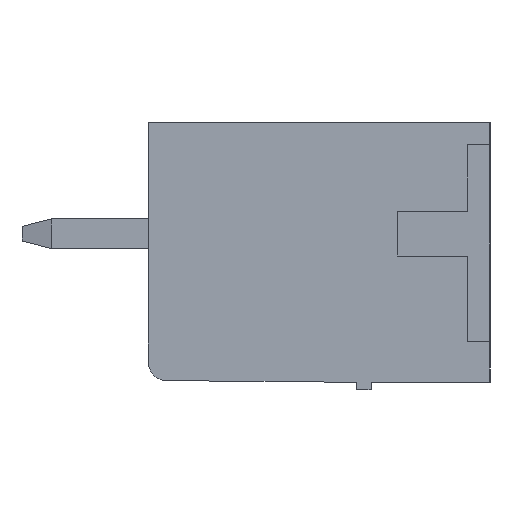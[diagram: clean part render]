
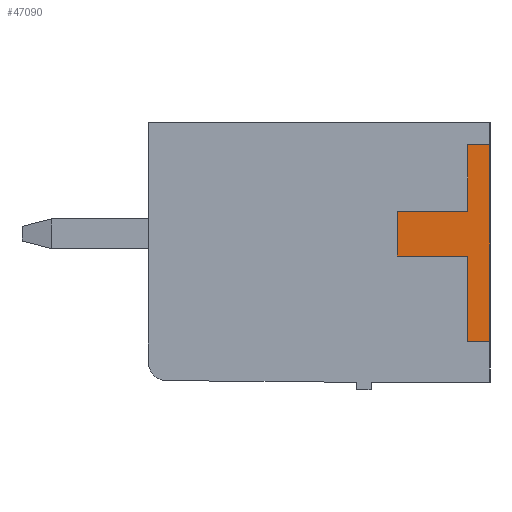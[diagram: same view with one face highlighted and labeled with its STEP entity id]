
A CAD part, left-side view. The second image highlights one B-rep face of the part: STEP entity #47090.
In plain terms, the highlighted planar face has unit normal (-1, 0, 0).
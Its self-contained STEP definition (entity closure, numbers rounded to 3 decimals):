
#100 = PLANE('',#101);
#101 = AXIS2_PLACEMENT_3D('',#102,#103,#104);
#102 = CARTESIAN_POINT('',(0.,0.,7.));
#103 = DIRECTION('',(0.,-1.,0.));
#104 = DIRECTION('',(0.,0.,-1.));
#128 = PLANE('',#129);
#129 = AXIS2_PLACEMENT_3D('',#130,#131,#132);
#130 = CARTESIAN_POINT('',(0.,0.,6.4));
#131 = DIRECTION('',(0.,0.,1.));
#132 = DIRECTION('',(0.,1.,0.));
#156 = PLANE('',#157);
#157 = AXIS2_PLACEMENT_3D('',#158,#159,#160);
#158 = CARTESIAN_POINT('',(0.,0.6,6.4));
#159 = DIRECTION('',(0.,1.,0.));
#160 = DIRECTION('',(0.,0.,-1.));
#184 = PLANE('',#185);
#185 = AXIS2_PLACEMENT_3D('',#186,#187,#188);
#186 = CARTESIAN_POINT('',(0.,0.6,4.6));
#187 = DIRECTION('',(0.,0.,1.));
#188 = DIRECTION('',(0.,1.,0.));
#212 = PLANE('',#213);
#213 = AXIS2_PLACEMENT_3D('',#214,#215,#216);
#214 = CARTESIAN_POINT('',(0.,2.5,4.6));
#215 = DIRECTION('',(0.,1.,0.));
#216 = DIRECTION('',(0.,0.,-1.));
#240 = PLANE('',#241);
#241 = AXIS2_PLACEMENT_3D('',#242,#243,#244);
#242 = CARTESIAN_POINT('',(0.,2.5,3.4));
#243 = DIRECTION('',(0.,0.,-1.));
#244 = DIRECTION('',(0.,-1.,0.));
#268 = PLANE('',#269);
#269 = AXIS2_PLACEMENT_3D('',#270,#271,#272);
#270 = CARTESIAN_POINT('',(0.,0.6,3.4));
#271 = DIRECTION('',(0.,1.,0.));
#272 = DIRECTION('',(0.,0.,-1.));
#296 = PLANE('',#297);
#297 = AXIS2_PLACEMENT_3D('',#298,#299,#300);
#298 = CARTESIAN_POINT('',(0.,0.6,1.1));
#299 = DIRECTION('',(0.,0.,-1.));
#300 = DIRECTION('',(0.,-1.,0.));
#6135 = VERTEX_POINT('',#6136);
#6136 = CARTESIAN_POINT('',(-0.2,0.,1.1));
#6157 = EDGE_CURVE('',#6135,#6158,#6160,.T.);
#6158 = VERTEX_POINT('',#6159);
#6159 = CARTESIAN_POINT('',(-0.2,0.,6.4));
#6160 = SURFACE_CURVE('',#6161,(#6165,#6172),.PCURVE_S1.);
#6161 = LINE('',#6162,#6163);
#6162 = CARTESIAN_POINT('',(-0.2,0.,1.1));
#6163 = VECTOR('',#6164,1.);
#6164 = DIRECTION('',(0.,0.,1.));
#6165 = PCURVE('',#100,#6166);
#6166 = DEFINITIONAL_REPRESENTATION('',(#6167),#6171);
#6167 = LINE('',#6168,#6169);
#6168 = CARTESIAN_POINT('',(5.9,-0.2));
#6169 = VECTOR('',#6170,1.);
#6170 = DIRECTION('',(-1.,0.));
#6171 = ( GEOMETRIC_REPRESENTATION_CONTEXT(2) 
PARAMETRIC_REPRESENTATION_CONTEXT() REPRESENTATION_CONTEXT('2D SPACE',''
  ) );
#6172 = PCURVE('',#6173,#6178);
#6173 = PLANE('',#6174);
#6174 = AXIS2_PLACEMENT_3D('',#6175,#6176,#6177);
#6175 = CARTESIAN_POINT('',(-0.2,0.,0.));
#6176 = DIRECTION('',(-1.,0.,0.));
#6177 = DIRECTION('',(0.,0.,1.));
#6178 = DEFINITIONAL_REPRESENTATION('',(#6179),#6183);
#6179 = LINE('',#6180,#6181);
#6180 = CARTESIAN_POINT('',(1.1,0.));
#6181 = VECTOR('',#6182,1.);
#6182 = DIRECTION('',(1.,0.));
#6183 = ( GEOMETRIC_REPRESENTATION_CONTEXT(2) 
PARAMETRIC_REPRESENTATION_CONTEXT() REPRESENTATION_CONTEXT('2D SPACE',''
  ) );
#46775 = VERTEX_POINT('',#46776);
#46776 = CARTESIAN_POINT('',(-0.2,0.6,1.1));
#46797 = EDGE_CURVE('',#46775,#6135,#46798,.T.);
#46798 = SURFACE_CURVE('',#46799,(#46803,#46810),.PCURVE_S1.);
#46799 = LINE('',#46800,#46801);
#46800 = CARTESIAN_POINT('',(-0.2,0.6,1.1));
#46801 = VECTOR('',#46802,1.);
#46802 = DIRECTION('',(0.,-1.,0.));
#46803 = PCURVE('',#296,#46804);
#46804 = DEFINITIONAL_REPRESENTATION('',(#46805),#46809);
#46805 = LINE('',#46806,#46807);
#46806 = CARTESIAN_POINT('',(0.,0.2));
#46807 = VECTOR('',#46808,1.);
#46808 = DIRECTION('',(1.,0.));
#46809 = ( GEOMETRIC_REPRESENTATION_CONTEXT(2) 
PARAMETRIC_REPRESENTATION_CONTEXT() REPRESENTATION_CONTEXT('2D SPACE',''
  ) );
#46810 = PCURVE('',#6173,#46811);
#46811 = DEFINITIONAL_REPRESENTATION('',(#46812),#46816);
#46812 = LINE('',#46813,#46814);
#46813 = CARTESIAN_POINT('',(1.1,0.6));
#46814 = VECTOR('',#46815,1.);
#46815 = DIRECTION('',(0.,-1.));
#46816 = ( GEOMETRIC_REPRESENTATION_CONTEXT(2) 
PARAMETRIC_REPRESENTATION_CONTEXT() REPRESENTATION_CONTEXT('2D SPACE',''
  ) );
#46824 = VERTEX_POINT('',#46825);
#46825 = CARTESIAN_POINT('',(-0.2,0.6,3.4));
#46846 = EDGE_CURVE('',#46824,#46775,#46847,.T.);
#46847 = SURFACE_CURVE('',#46848,(#46852,#46859),.PCURVE_S1.);
#46848 = LINE('',#46849,#46850);
#46849 = CARTESIAN_POINT('',(-0.2,0.6,3.4));
#46850 = VECTOR('',#46851,1.);
#46851 = DIRECTION('',(0.,0.,-1.));
#46852 = PCURVE('',#268,#46853);
#46853 = DEFINITIONAL_REPRESENTATION('',(#46854),#46858);
#46854 = LINE('',#46855,#46856);
#46855 = CARTESIAN_POINT('',(0.,0.2));
#46856 = VECTOR('',#46857,1.);
#46857 = DIRECTION('',(1.,0.));
#46858 = ( GEOMETRIC_REPRESENTATION_CONTEXT(2) 
PARAMETRIC_REPRESENTATION_CONTEXT() REPRESENTATION_CONTEXT('2D SPACE',''
  ) );
#46859 = PCURVE('',#6173,#46860);
#46860 = DEFINITIONAL_REPRESENTATION('',(#46861),#46865);
#46861 = LINE('',#46862,#46863);
#46862 = CARTESIAN_POINT('',(3.4,0.6));
#46863 = VECTOR('',#46864,1.);
#46864 = DIRECTION('',(-1.,0.));
#46865 = ( GEOMETRIC_REPRESENTATION_CONTEXT(2) 
PARAMETRIC_REPRESENTATION_CONTEXT() REPRESENTATION_CONTEXT('2D SPACE',''
  ) );
#46873 = VERTEX_POINT('',#46874);
#46874 = CARTESIAN_POINT('',(-0.2,2.5,3.4));
#46895 = EDGE_CURVE('',#46873,#46824,#46896,.T.);
#46896 = SURFACE_CURVE('',#46897,(#46901,#46908),.PCURVE_S1.);
#46897 = LINE('',#46898,#46899);
#46898 = CARTESIAN_POINT('',(-0.2,2.5,3.4));
#46899 = VECTOR('',#46900,1.);
#46900 = DIRECTION('',(0.,-1.,0.));
#46901 = PCURVE('',#240,#46902);
#46902 = DEFINITIONAL_REPRESENTATION('',(#46903),#46907);
#46903 = LINE('',#46904,#46905);
#46904 = CARTESIAN_POINT('',(0.,0.2));
#46905 = VECTOR('',#46906,1.);
#46906 = DIRECTION('',(1.,0.));
#46907 = ( GEOMETRIC_REPRESENTATION_CONTEXT(2) 
PARAMETRIC_REPRESENTATION_CONTEXT() REPRESENTATION_CONTEXT('2D SPACE',''
  ) );
#46908 = PCURVE('',#6173,#46909);
#46909 = DEFINITIONAL_REPRESENTATION('',(#46910),#46914);
#46910 = LINE('',#46911,#46912);
#46911 = CARTESIAN_POINT('',(3.4,2.5));
#46912 = VECTOR('',#46913,1.);
#46913 = DIRECTION('',(0.,-1.));
#46914 = ( GEOMETRIC_REPRESENTATION_CONTEXT(2) 
PARAMETRIC_REPRESENTATION_CONTEXT() REPRESENTATION_CONTEXT('2D SPACE',''
  ) );
#46922 = VERTEX_POINT('',#46923);
#46923 = CARTESIAN_POINT('',(-0.2,2.5,4.6));
#46944 = EDGE_CURVE('',#46922,#46873,#46945,.T.);
#46945 = SURFACE_CURVE('',#46946,(#46950,#46957),.PCURVE_S1.);
#46946 = LINE('',#46947,#46948);
#46947 = CARTESIAN_POINT('',(-0.2,2.5,4.6));
#46948 = VECTOR('',#46949,1.);
#46949 = DIRECTION('',(0.,0.,-1.));
#46950 = PCURVE('',#212,#46951);
#46951 = DEFINITIONAL_REPRESENTATION('',(#46952),#46956);
#46952 = LINE('',#46953,#46954);
#46953 = CARTESIAN_POINT('',(0.,0.2));
#46954 = VECTOR('',#46955,1.);
#46955 = DIRECTION('',(1.,0.));
#46956 = ( GEOMETRIC_REPRESENTATION_CONTEXT(2) 
PARAMETRIC_REPRESENTATION_CONTEXT() REPRESENTATION_CONTEXT('2D SPACE',''
  ) );
#46957 = PCURVE('',#6173,#46958);
#46958 = DEFINITIONAL_REPRESENTATION('',(#46959),#46963);
#46959 = LINE('',#46960,#46961);
#46960 = CARTESIAN_POINT('',(4.6,2.5));
#46961 = VECTOR('',#46962,1.);
#46962 = DIRECTION('',(-1.,0.));
#46963 = ( GEOMETRIC_REPRESENTATION_CONTEXT(2) 
PARAMETRIC_REPRESENTATION_CONTEXT() REPRESENTATION_CONTEXT('2D SPACE',''
  ) );
#46971 = VERTEX_POINT('',#46972);
#46972 = CARTESIAN_POINT('',(-0.2,0.6,4.6));
#46993 = EDGE_CURVE('',#46971,#46922,#46994,.T.);
#46994 = SURFACE_CURVE('',#46995,(#46999,#47006),.PCURVE_S1.);
#46995 = LINE('',#46996,#46997);
#46996 = CARTESIAN_POINT('',(-0.2,0.6,4.6));
#46997 = VECTOR('',#46998,1.);
#46998 = DIRECTION('',(0.,1.,0.));
#46999 = PCURVE('',#184,#47000);
#47000 = DEFINITIONAL_REPRESENTATION('',(#47001),#47005);
#47001 = LINE('',#47002,#47003);
#47002 = CARTESIAN_POINT('',(0.,0.2));
#47003 = VECTOR('',#47004,1.);
#47004 = DIRECTION('',(1.,0.));
#47005 = ( GEOMETRIC_REPRESENTATION_CONTEXT(2) 
PARAMETRIC_REPRESENTATION_CONTEXT() REPRESENTATION_CONTEXT('2D SPACE',''
  ) );
#47006 = PCURVE('',#6173,#47007);
#47007 = DEFINITIONAL_REPRESENTATION('',(#47008),#47012);
#47008 = LINE('',#47009,#47010);
#47009 = CARTESIAN_POINT('',(4.6,0.6));
#47010 = VECTOR('',#47011,1.);
#47011 = DIRECTION('',(0.,1.));
#47012 = ( GEOMETRIC_REPRESENTATION_CONTEXT(2) 
PARAMETRIC_REPRESENTATION_CONTEXT() REPRESENTATION_CONTEXT('2D SPACE',''
  ) );
#47020 = VERTEX_POINT('',#47021);
#47021 = CARTESIAN_POINT('',(-0.2,0.6,6.4));
#47042 = EDGE_CURVE('',#47020,#46971,#47043,.T.);
#47043 = SURFACE_CURVE('',#47044,(#47048,#47055),.PCURVE_S1.);
#47044 = LINE('',#47045,#47046);
#47045 = CARTESIAN_POINT('',(-0.2,0.6,6.4));
#47046 = VECTOR('',#47047,1.);
#47047 = DIRECTION('',(0.,0.,-1.));
#47048 = PCURVE('',#156,#47049);
#47049 = DEFINITIONAL_REPRESENTATION('',(#47050),#47054);
#47050 = LINE('',#47051,#47052);
#47051 = CARTESIAN_POINT('',(0.,0.2));
#47052 = VECTOR('',#47053,1.);
#47053 = DIRECTION('',(1.,0.));
#47054 = ( GEOMETRIC_REPRESENTATION_CONTEXT(2) 
PARAMETRIC_REPRESENTATION_CONTEXT() REPRESENTATION_CONTEXT('2D SPACE',''
  ) );
#47055 = PCURVE('',#6173,#47056);
#47056 = DEFINITIONAL_REPRESENTATION('',(#47057),#47061);
#47057 = LINE('',#47058,#47059);
#47058 = CARTESIAN_POINT('',(6.4,0.6));
#47059 = VECTOR('',#47060,1.);
#47060 = DIRECTION('',(-1.,0.));
#47061 = ( GEOMETRIC_REPRESENTATION_CONTEXT(2) 
PARAMETRIC_REPRESENTATION_CONTEXT() REPRESENTATION_CONTEXT('2D SPACE',''
  ) );
#47069 = EDGE_CURVE('',#6158,#47020,#47070,.T.);
#47070 = SURFACE_CURVE('',#47071,(#47075,#47082),.PCURVE_S1.);
#47071 = LINE('',#47072,#47073);
#47072 = CARTESIAN_POINT('',(-0.2,0.,6.4));
#47073 = VECTOR('',#47074,1.);
#47074 = DIRECTION('',(0.,1.,0.));
#47075 = PCURVE('',#128,#47076);
#47076 = DEFINITIONAL_REPRESENTATION('',(#47077),#47081);
#47077 = LINE('',#47078,#47079);
#47078 = CARTESIAN_POINT('',(0.,0.2));
#47079 = VECTOR('',#47080,1.);
#47080 = DIRECTION('',(1.,0.));
#47081 = ( GEOMETRIC_REPRESENTATION_CONTEXT(2) 
PARAMETRIC_REPRESENTATION_CONTEXT() REPRESENTATION_CONTEXT('2D SPACE',''
  ) );
#47082 = PCURVE('',#6173,#47083);
#47083 = DEFINITIONAL_REPRESENTATION('',(#47084),#47088);
#47084 = LINE('',#47085,#47086);
#47085 = CARTESIAN_POINT('',(6.4,0.));
#47086 = VECTOR('',#47087,1.);
#47087 = DIRECTION('',(0.,1.));
#47088 = ( GEOMETRIC_REPRESENTATION_CONTEXT(2) 
PARAMETRIC_REPRESENTATION_CONTEXT() REPRESENTATION_CONTEXT('2D SPACE',''
  ) );
#47090 = ADVANCED_FACE('',(#47091),#6173,.T.);
#47091 = FACE_BOUND('',#47092,.F.);
#47092 = EDGE_LOOP('',(#47093,#47094,#47095,#47096,#47097,#47098,#47099,
    #47100));
#47093 = ORIENTED_EDGE('',*,*,#47069,.F.);
#47094 = ORIENTED_EDGE('',*,*,#6157,.F.);
#47095 = ORIENTED_EDGE('',*,*,#46797,.F.);
#47096 = ORIENTED_EDGE('',*,*,#46846,.F.);
#47097 = ORIENTED_EDGE('',*,*,#46895,.F.);
#47098 = ORIENTED_EDGE('',*,*,#46944,.F.);
#47099 = ORIENTED_EDGE('',*,*,#46993,.F.);
#47100 = ORIENTED_EDGE('',*,*,#47042,.F.);
